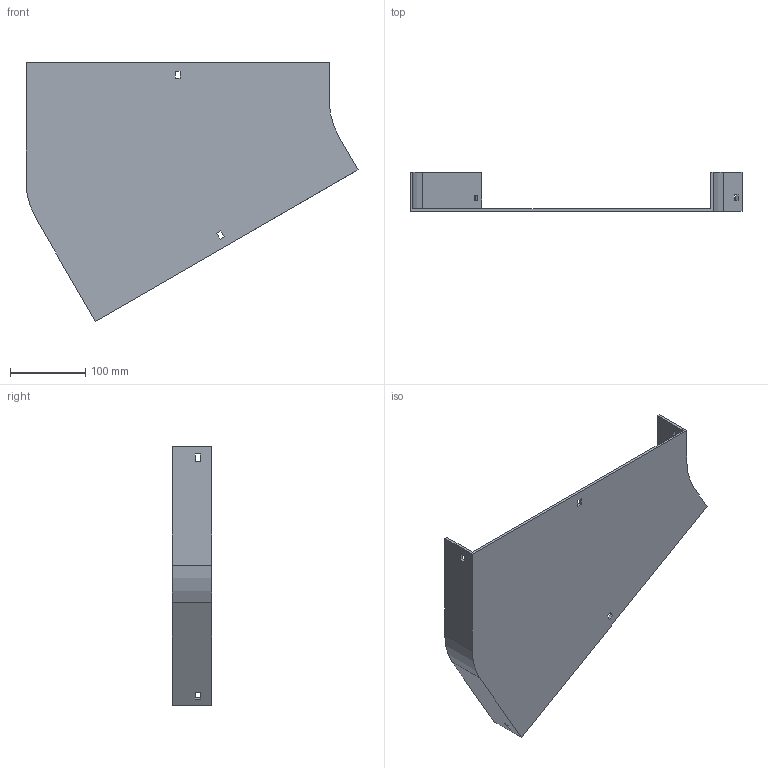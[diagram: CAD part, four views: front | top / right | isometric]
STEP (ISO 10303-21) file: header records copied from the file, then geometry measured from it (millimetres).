
FILE_DESCRIPTION (( 'STEP AP214' ), '1' );
FILE_NAME ('12B1B400.step', '2025-02-21T09:34:36', ( '' ), ( '' ), 'SwSTEP 2.0', 'SolidWorks 2023', '' );
FILE_SCHEMA (( 'AUTOMOTIVE_DESIGN' ));
Length unit declared in the file: millimetre
Products named in the file (1): 12B1B400
Bounding box: 442.4 x 52 x 345.3 mm (x, y, z)
Volume: 457331.7 mm3; surface area: 267356.7 mm2
Topology: 1 solids, 1 shells, 42 faces, 120 edges, 80 vertices
Faces by surface type: plane 38, cylinder 4
Entity records: 1399 total; most frequent: CARTESIAN_POINT 243, ORIENTED_EDGE 240, DIRECTION 214, EDGE_CURVE 120, LINE 112, VECTOR 112, VERTEX_POINT 80, EDGE_LOOP 54
